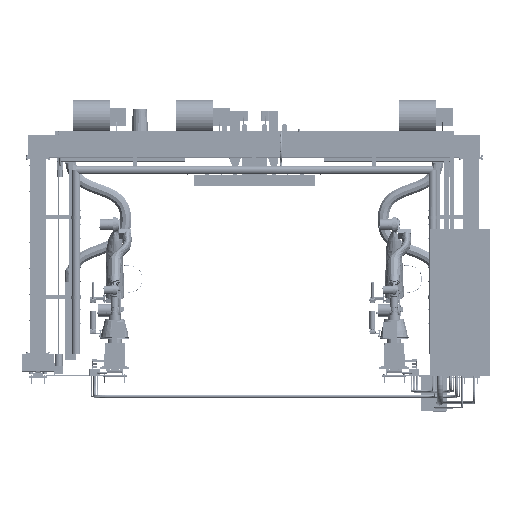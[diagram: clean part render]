
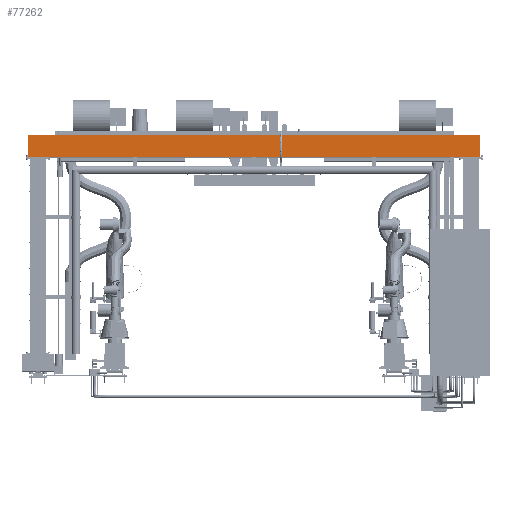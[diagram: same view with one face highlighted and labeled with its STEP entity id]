
A CAD part, top view. The second image highlights one B-rep face of the part: STEP entity #77262.
In plain terms, the highlighted planar face has unit normal (0, 0, 1).
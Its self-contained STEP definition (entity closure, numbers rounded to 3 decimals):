
#75535 = VERTEX_POINT('',#75536);
#75536 = CARTESIAN_POINT('',(-3397.35,3301.7,909.1));
#75543 = PLANE('',#75544);
#75544 = AXIS2_PLACEMENT_3D('',#75545,#75546,#75547);
#75545 = CARTESIAN_POINT('',(-3397.35,3301.7,759.1));
#75546 = DIRECTION('',(1.,0.,0.));
#75547 = DIRECTION('',(0.,0.,1.));
#75555 = PLANE('',#75556);
#75556 = AXIS2_PLACEMENT_3D('',#75557,#75558,#75559);
#75557 = CARTESIAN_POINT('',(-3397.35,3301.7,759.1));
#75558 = DIRECTION('',(0.,1.,0.));
#75559 = DIRECTION('',(0.,0.,1.));
#75810 = VERTEX_POINT('',#75811);
#75811 = CARTESIAN_POINT('',(-3397.35,3636.6,909.1));
#75825 = PLANE('',#75826);
#75826 = AXIS2_PLACEMENT_3D('',#75827,#75828,#75829);
#75827 = CARTESIAN_POINT('',(-3397.35,3636.6,759.1));
#75828 = DIRECTION('',(0.,1.,0.));
#75829 = DIRECTION('',(0.,0.,1.));
#75837 = EDGE_CURVE('',#75535,#75810,#75838,.T.);
#75838 = SURFACE_CURVE('',#75839,(#75843,#75850),.PCURVE_S1.);
#75839 = LINE('',#75840,#75841);
#75840 = CARTESIAN_POINT('',(-3397.35,3301.7,909.1));
#75841 = VECTOR('',#75842,1.);
#75842 = DIRECTION('',(0.,1.,0.));
#75843 = PCURVE('',#75543,#75844);
#75844 = DEFINITIONAL_REPRESENTATION('',(#75845),#75849);
#75845 = LINE('',#75846,#75847);
#75846 = CARTESIAN_POINT('',(150.,0.));
#75847 = VECTOR('',#75848,1.);
#75848 = DIRECTION('',(0.,-1.));
#75849 = ( GEOMETRIC_REPRESENTATION_CONTEXT(2) 
PARAMETRIC_REPRESENTATION_CONTEXT() REPRESENTATION_CONTEXT('2D SPACE',''
  ) );
#75850 = PCURVE('',#75851,#75856);
#75851 = PLANE('',#75852);
#75852 = AXIS2_PLACEMENT_3D('',#75853,#75854,#75855);
#75853 = CARTESIAN_POINT('',(-3397.35,3301.7,909.1));
#75854 = DIRECTION('',(0.,0.,1.));
#75855 = DIRECTION('',(1.,0.,0.));
#75856 = DEFINITIONAL_REPRESENTATION('',(#75857),#75861);
#75857 = LINE('',#75858,#75859);
#75858 = CARTESIAN_POINT('',(0.,0.));
#75859 = VECTOR('',#75860,1.);
#75860 = DIRECTION('',(0.,1.));
#75861 = ( GEOMETRIC_REPRESENTATION_CONTEXT(2) 
PARAMETRIC_REPRESENTATION_CONTEXT() REPRESENTATION_CONTEXT('2D SPACE',''
  ) );
#76110 = EDGE_CURVE('',#75535,#76111,#76113,.T.);
#76111 = VERTEX_POINT('',#76112);
#76112 = CARTESIAN_POINT('',(3397.35,3301.7,909.1));
#76113 = SURFACE_CURVE('',#76114,(#76118,#76125),.PCURVE_S1.);
#76114 = LINE('',#76115,#76116);
#76115 = CARTESIAN_POINT('',(-3397.35,3301.7,909.1));
#76116 = VECTOR('',#76117,1.);
#76117 = DIRECTION('',(1.,0.,0.));
#76118 = PCURVE('',#75555,#76119);
#76119 = DEFINITIONAL_REPRESENTATION('',(#76120),#76124);
#76120 = LINE('',#76121,#76122);
#76121 = CARTESIAN_POINT('',(150.,0.));
#76122 = VECTOR('',#76123,1.);
#76123 = DIRECTION('',(0.,1.));
#76124 = ( GEOMETRIC_REPRESENTATION_CONTEXT(2) 
PARAMETRIC_REPRESENTATION_CONTEXT() REPRESENTATION_CONTEXT('2D SPACE',''
  ) );
#76125 = PCURVE('',#75851,#76126);
#76126 = DEFINITIONAL_REPRESENTATION('',(#76127),#76131);
#76127 = LINE('',#76128,#76129);
#76128 = CARTESIAN_POINT('',(0.,0.));
#76129 = VECTOR('',#76130,1.);
#76130 = DIRECTION('',(1.,0.));
#76131 = ( GEOMETRIC_REPRESENTATION_CONTEXT(2) 
PARAMETRIC_REPRESENTATION_CONTEXT() REPRESENTATION_CONTEXT('2D SPACE',''
  ) );
#76147 = PLANE('',#76148);
#76148 = AXIS2_PLACEMENT_3D('',#76149,#76150,#76151);
#76149 = CARTESIAN_POINT('',(3397.35,3301.7,759.1));
#76150 = DIRECTION('',(1.,0.,0.));
#76151 = DIRECTION('',(0.,0.,1.));
#77219 = EDGE_CURVE('',#75810,#77220,#77222,.T.);
#77220 = VERTEX_POINT('',#77221);
#77221 = CARTESIAN_POINT('',(3397.35,3636.6,909.1));
#77222 = SURFACE_CURVE('',#77223,(#77227,#77234),.PCURVE_S1.);
#77223 = LINE('',#77224,#77225);
#77224 = CARTESIAN_POINT('',(-3397.35,3636.6,909.1));
#77225 = VECTOR('',#77226,1.);
#77226 = DIRECTION('',(1.,0.,0.));
#77227 = PCURVE('',#75825,#77228);
#77228 = DEFINITIONAL_REPRESENTATION('',(#77229),#77233);
#77229 = LINE('',#77230,#77231);
#77230 = CARTESIAN_POINT('',(150.,0.));
#77231 = VECTOR('',#77232,1.);
#77232 = DIRECTION('',(0.,1.));
#77233 = ( GEOMETRIC_REPRESENTATION_CONTEXT(2) 
PARAMETRIC_REPRESENTATION_CONTEXT() REPRESENTATION_CONTEXT('2D SPACE',''
  ) );
#77234 = PCURVE('',#75851,#77235);
#77235 = DEFINITIONAL_REPRESENTATION('',(#77236),#77240);
#77236 = LINE('',#77237,#77238);
#77237 = CARTESIAN_POINT('',(0.,334.9));
#77238 = VECTOR('',#77239,1.);
#77239 = DIRECTION('',(1.,0.));
#77240 = ( GEOMETRIC_REPRESENTATION_CONTEXT(2) 
PARAMETRIC_REPRESENTATION_CONTEXT() REPRESENTATION_CONTEXT('2D SPACE',''
  ) );
#77262 = ADVANCED_FACE('',(#77263),#75851,.T.);
#77263 = FACE_BOUND('',#77264,.T.);
#77264 = EDGE_LOOP('',(#77265,#77266,#77267,#77288));
#77265 = ORIENTED_EDGE('',*,*,#75837,.F.);
#77266 = ORIENTED_EDGE('',*,*,#76110,.T.);
#77267 = ORIENTED_EDGE('',*,*,#77268,.T.);
#77268 = EDGE_CURVE('',#76111,#77220,#77269,.T.);
#77269 = SURFACE_CURVE('',#77270,(#77274,#77281),.PCURVE_S1.);
#77270 = LINE('',#77271,#77272);
#77271 = CARTESIAN_POINT('',(3397.35,3301.7,909.1));
#77272 = VECTOR('',#77273,1.);
#77273 = DIRECTION('',(0.,1.,0.));
#77274 = PCURVE('',#75851,#77275);
#77275 = DEFINITIONAL_REPRESENTATION('',(#77276),#77280);
#77276 = LINE('',#77277,#77278);
#77277 = CARTESIAN_POINT('',(6794.7,0.));
#77278 = VECTOR('',#77279,1.);
#77279 = DIRECTION('',(0.,1.));
#77280 = ( GEOMETRIC_REPRESENTATION_CONTEXT(2) 
PARAMETRIC_REPRESENTATION_CONTEXT() REPRESENTATION_CONTEXT('2D SPACE',''
  ) );
#77281 = PCURVE('',#76147,#77282);
#77282 = DEFINITIONAL_REPRESENTATION('',(#77283),#77287);
#77283 = LINE('',#77284,#77285);
#77284 = CARTESIAN_POINT('',(150.,0.));
#77285 = VECTOR('',#77286,1.);
#77286 = DIRECTION('',(0.,-1.));
#77287 = ( GEOMETRIC_REPRESENTATION_CONTEXT(2) 
PARAMETRIC_REPRESENTATION_CONTEXT() REPRESENTATION_CONTEXT('2D SPACE',''
  ) );
#77288 = ORIENTED_EDGE('',*,*,#77219,.F.);
